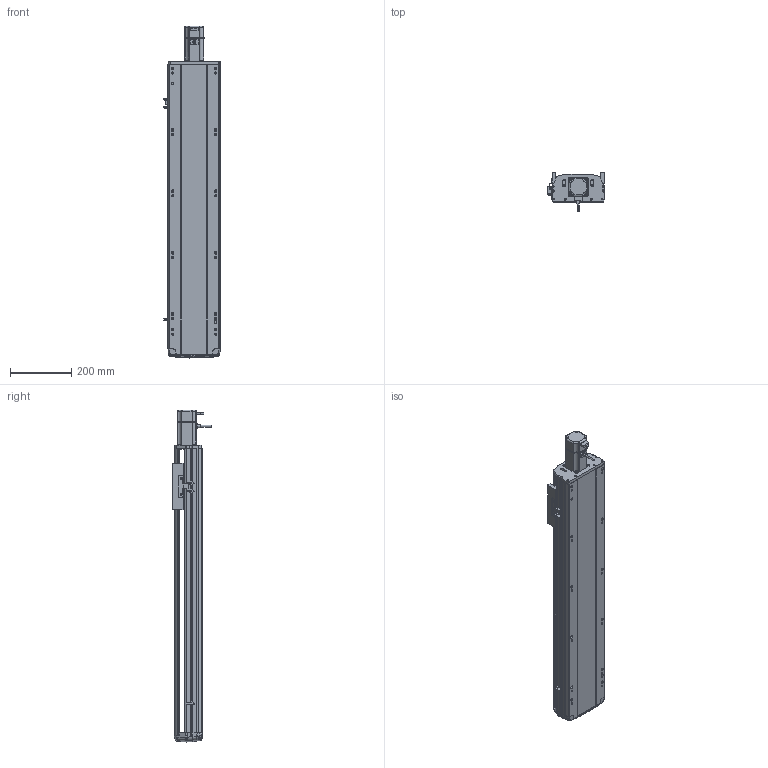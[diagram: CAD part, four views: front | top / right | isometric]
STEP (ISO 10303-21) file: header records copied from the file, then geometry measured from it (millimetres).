
FILE_DESCRIPTION (( 'STEP AP214' ), '1' );
FILE_NAME ('RTH17-XX-700-E-M40-C4（方程式）.STEP', '2025-10-24T05:41:33', ( '' ), ( '' ), 'SwSTEP 2.0', 'SolidWorks 2018', '' );
FILE_SCHEMA (( 'AUTOMOTIVE_DESIGN' ));
Length unit declared in the file: millimetre
Products named in the file (9): N_RTH-BL-012 感应片(外置)^RTH17-XX-XX-E-M40-C4（方程式）; N_RTH17-E-011底座^RTH17-XX-XX-E-M40-C4（方程式）; N_RTH17-E-004丝杆螺母连接座^RTH17-XX-XX-E-M40-C4（方程式）; RTH17-XX-700-E-M40-C4（方程式）; N_RTH17-E-007上盖^RTH17-XX-XX-E-M40-C4（方程式）; N_RTH17-E-008-P40电机板^RTH17-XX-XX-E-M40-C4（方程式）; N_OMRON EE-SX672 換覜ん^RTH17-XX-XX-E-M40-C4ㄗ源最宒ㄘ; N_M40^RTH17-XX-XX-E-M40-C4（方程式）; N_RTH17-GY-001P^RTH17-XX-XX-E-M40-C4（方程式）
Assembly tree (10 placements, depth 2):
  RTH17-XX-700-E-M40-C4（方程式）
    N_RTH17-E-011底座^RTH17-XX-XX-E-M40-C4（方程式）
    N_RTH17-E-007上盖^RTH17-XX-XX-E-M40-C4（方程式）
    N_RTH17-E-008-P40电机板^RTH17-XX-XX-E-M40-C4（方程式）
    N_OMRON EE-SX672 換覜ん^RTH17-XX-XX-E-M40-C4ㄗ源最宒ㄘ  x3
    N_RTH-BL-012 感应片(外置)^RTH17-XX-XX-E-M40-C4（方程式）
    N_RTH17-E-004丝杆螺母连接座^RTH17-XX-XX-E-M40-C4（方程式）
    N_RTH17-GY-001P^RTH17-XX-XX-E-M40-C4（方程式）
    N_M40^RTH17-XX-XX-E-M40-C4（方程式）
Bounding box: 183.5 x 127 x 1080.69 mm (x, y, z)
Volume: 7761506.4 mm3; surface area: 1050784 mm2
Topology: 9 solids, 11 shells, 1681 faces, 4711 edges, 3074 vertices
Faces by surface type: plane 829, cylinder 485, bspline 330, cone 28, torus 9
Entity records: 49565 total; most frequent: CARTESIAN_POINT 19778, ORIENTED_EDGE 6446, DIRECTION 5355, EDGE_CURVE 3227, VERTEX_POINT 2110, VECTOR 1795, LINE 1795, AXIS2_PLACEMENT_3D 1780
